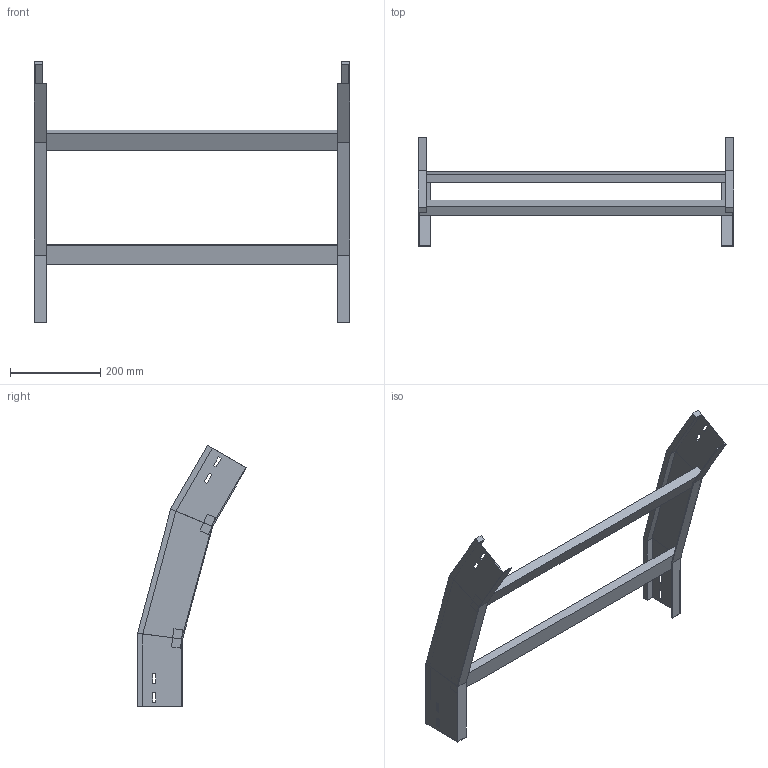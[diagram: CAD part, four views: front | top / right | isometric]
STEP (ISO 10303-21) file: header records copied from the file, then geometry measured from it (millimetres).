
FILE_DESCRIPTION (( 'STEP AP214' ), '1' );
FILE_NAME ('35B5D700.step', '2025-02-21T14:45:53', ( '' ), ( '' ), 'SwSTEP 2.0', 'SolidWorks 2023', '' );
FILE_SCHEMA (( 'AUTOMOTIVE_DESIGN' ));
Length unit declared in the file: millimetre
Products named in the file (3): 35B5D700; TRAVERSINO_700; LONGH.DISCESA_30°_H100_R500
Assembly tree (5 placements, depth 2):
  35B5D700
    LONGH.DISCESA_30°_H100_R500  x2
    TRAVERSINO_700  x3
Bounding box: 700 x 242.03 x 580.08 mm (x, y, z)
Volume: 2212565.4 mm3; surface area: 591451.6 mm2
Topology: 5 solids, 5 shells, 102 faces, 244 edges, 152 vertices
Faces by surface type: plane 102
Entity records: 1480 total; most frequent: CARTESIAN_POINT 244, ORIENTED_EDGE 232, DIRECTION 228, LINE 116, EDGE_CURVE 116, VECTOR 116, VERTEX_POINT 72, AXIS2_PLACEMENT_3D 56
